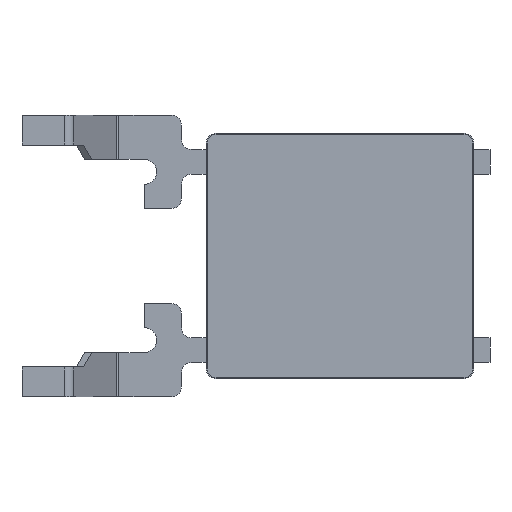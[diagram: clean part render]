
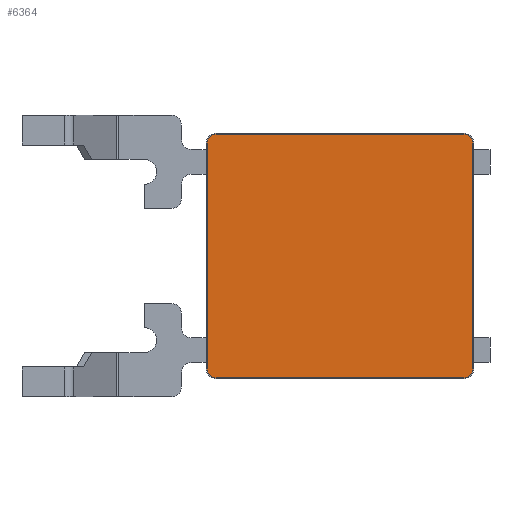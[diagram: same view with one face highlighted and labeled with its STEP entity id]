
A CAD part, front view. The second image highlights one B-rep face of the part: STEP entity #6364.
In plain terms, the highlighted planar face has unit normal (0, -1, 0).
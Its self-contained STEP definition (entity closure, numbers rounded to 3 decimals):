
#6121=CARTESIAN_POINT('',(2.5,-0.05,2.275));
#6122=DIRECTION('',(0.,-1.,0.));
#6123=DIRECTION('',(1.,0.,0.));
#6124=AXIS2_PLACEMENT_3D('',#6121,#6122,#6123);
#6129=DIRECTION('',(0.,0.,1.));
#6130=VECTOR('',#6129,4.55);
#6131=CARTESIAN_POINT('',(2.68,-0.05,-2.275));
#6132=LINE('',#6131,#6130);
#6136=CARTESIAN_POINT('',(2.5,-0.05,-2.275));
#6137=DIRECTION('',(0.,-1.,0.));
#6138=DIRECTION('',(0.,0.,-1.));
#6139=AXIS2_PLACEMENT_3D('',#6136,#6137,#6138);
#6144=DIRECTION('',(1.,0.,0.));
#6145=VECTOR('',#6144,5.);
#6146=CARTESIAN_POINT('',(-2.5,-0.05,-2.455));
#6147=LINE('',#6146,#6145);
#6151=CARTESIAN_POINT('',(-2.5,-0.05,-2.275));
#6152=DIRECTION('',(0.,-1.,0.));
#6153=DIRECTION('',(-1.,0.,0.));
#6154=AXIS2_PLACEMENT_3D('',#6151,#6152,#6153);
#6159=DIRECTION('',(0.,0.,-1.));
#6160=VECTOR('',#6159,4.55);
#6161=CARTESIAN_POINT('',(-2.68,-0.05,2.275));
#6162=LINE('',#6161,#6160);
#6166=CARTESIAN_POINT('',(-2.5,-0.05,2.275));
#6167=DIRECTION('',(0.,-1.,0.));
#6168=DIRECTION('',(0.,0.,1.));
#6169=AXIS2_PLACEMENT_3D('',#6166,#6167,#6168);
#6174=DIRECTION('',(-1.,0.,0.));
#6175=VECTOR('',#6174,5.);
#6176=CARTESIAN_POINT('',(2.5,-0.05,2.455));
#6177=LINE('',#6176,#6175);
#6197=CARTESIAN_POINT('',(2.68,-0.05,2.275));
#6198=CARTESIAN_POINT('',(2.5,-0.05,2.455));
#6199=VERTEX_POINT('',#6197);
#6200=VERTEX_POINT('',#6198);
#6201=CARTESIAN_POINT('',(-2.5,-0.05,2.455));
#6202=VERTEX_POINT('',#6201);
#6203=CARTESIAN_POINT('',(-2.68,-0.05,2.275));
#6204=VERTEX_POINT('',#6203);
#6205=CARTESIAN_POINT('',(-2.68,-0.05,-2.275));
#6206=VERTEX_POINT('',#6205);
#6207=CARTESIAN_POINT('',(-2.5,-0.05,-2.455));
#6208=VERTEX_POINT('',#6207);
#6209=CARTESIAN_POINT('',(2.5,-0.05,-2.455));
#6210=VERTEX_POINT('',#6209);
#6211=CARTESIAN_POINT('',(2.68,-0.05,-2.275));
#6212=VERTEX_POINT('',#6211);
#6349=CARTESIAN_POINT('',(0.,-0.05,0.));
#6350=DIRECTION('',(0.,-1.,0.));
#6351=DIRECTION('',(-1.,0.,0.));
#6352=AXIS2_PLACEMENT_3D('',#6349,#6350,#6351);
#6353=PLANE('',#6352);
#6354=ORIENTED_EDGE('',*,*,#6245,.F.);
#6355=ORIENTED_EDGE('',*,*,#6260,.F.);
#6356=ORIENTED_EDGE('',*,*,#6274,.F.);
#6357=ORIENTED_EDGE('',*,*,#6288,.F.);
#6358=ORIENTED_EDGE('',*,*,#6302,.F.);
#6359=ORIENTED_EDGE('',*,*,#6316,.F.);
#6360=ORIENTED_EDGE('',*,*,#6330,.F.);
#6361=ORIENTED_EDGE('',*,*,#6343,.F.);
#6362=EDGE_LOOP('',(#6354,#6355,#6356,#6357,#6358,#6359,#6360,#6361));
#6363=FACE_OUTER_BOUND('',#6362,.F.);
#6125=CIRCLE('',#6124,0.18);
#6140=CIRCLE('',#6139,0.18);
#6155=CIRCLE('',#6154,0.18);
#6170=CIRCLE('',#6169,0.18);
#6245=EDGE_CURVE('',#6199,#6200,#6125,.T.);
#6260=EDGE_CURVE('',#6212,#6199,#6132,.T.);
#6274=EDGE_CURVE('',#6210,#6212,#6140,.T.);
#6288=EDGE_CURVE('',#6208,#6210,#6147,.T.);
#6302=EDGE_CURVE('',#6206,#6208,#6155,.T.);
#6316=EDGE_CURVE('',#6204,#6206,#6162,.T.);
#6330=EDGE_CURVE('',#6202,#6204,#6170,.T.);
#6343=EDGE_CURVE('',#6200,#6202,#6177,.T.);
#6364=ADVANCED_FACE('',(#6363),#6353,.T.);
